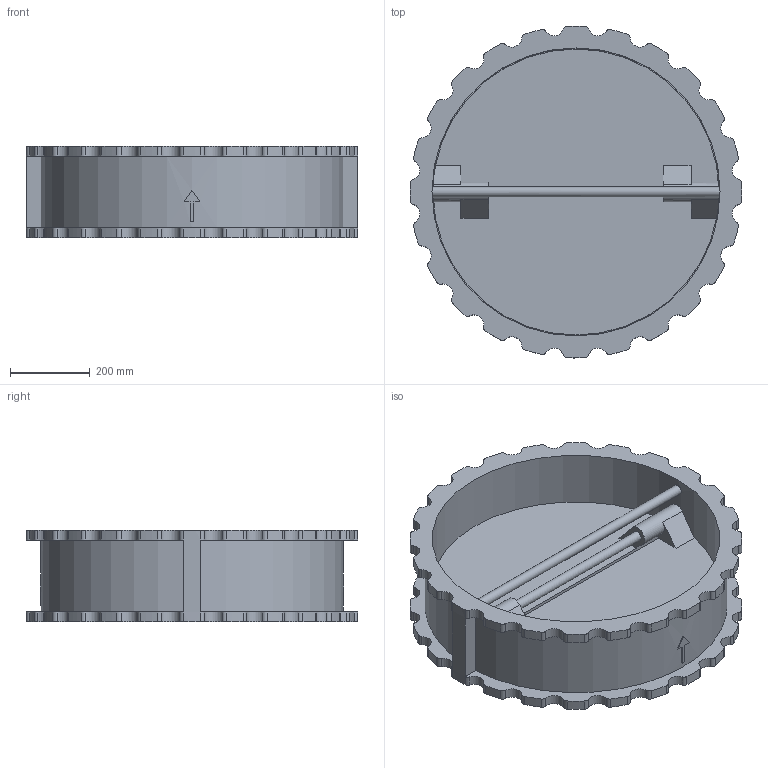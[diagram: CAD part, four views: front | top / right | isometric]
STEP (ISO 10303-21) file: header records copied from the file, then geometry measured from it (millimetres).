
FILE_DESCRIPTION(('STEP AP203'), '1');
FILE_NAME('孰囡囗 钺疣蝽 溻篚耱忸瘅囹 戾骠豚眦邂 010C.Y DN700', '', ('UNSPECIFIED'), ('UNSPECIFIED'), 'ASCON STEP Converter 1.6', 'ASCON Math Kernel', '');
FILE_SCHEMA(('CONFIG_CONTROL_DESIGN'));
Length unit declared in the file: millimetre
Bounding box: 831.87 x 831.87 x 230 mm (x, y, z)
Volume: 25101934.6 mm3; surface area: 2541963 mm2
Topology: 1 solids, 1 shells, 264 faces, 780 edges, 518 vertices
Faces by surface type: cylinder 205, plane 58, cone 1
Full cylindrical faces by diameter (mm): 25 x4, 722 x1
Entity records: 12504 total; most frequent: CARTESIAN_POINT 2944, DIRECTION 1700, ORIENTED_EDGE 1548, EDGE_CURVE 774, AXIS2_PLACEMENT_3D 689, VERTEX_POINT 518, CIRCLE 424, LINE 322
